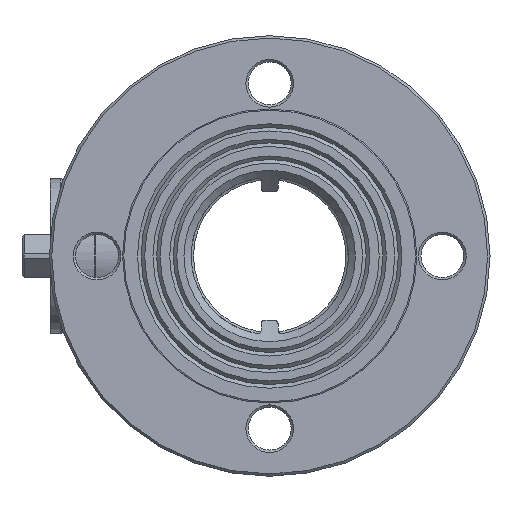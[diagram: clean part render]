
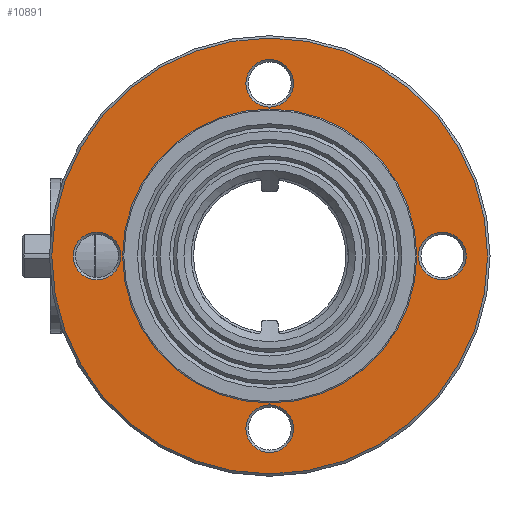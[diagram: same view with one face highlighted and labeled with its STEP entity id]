
A CAD part, left-side view. The second image highlights one B-rep face of the part: STEP entity #10891.
In plain terms, the highlighted planar face has unit normal (-1, 0, 0) as drawn and (0, 0, -1) by its records, which use the part's own axes.
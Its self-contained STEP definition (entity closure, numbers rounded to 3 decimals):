
#1015=CIRCLE('',#11944,10.);
#1016=CIRCLE('',#11946,91.5);
#1017=CIRCLE('',#11947,10.);
#1018=CIRCLE('',#11948,10.);
#1019=CIRCLE('',#11949,47.5);
#1020=CIRCLE('',#11950,10.);
#1681=FACE_BOUND('',#3209,.T.);
#1682=FACE_BOUND('',#3210,.T.);
#1683=FACE_BOUND('',#3211,.T.);
#1684=FACE_BOUND('',#3212,.T.);
#1685=FACE_BOUND('',#3213,.T.);
#2347=FACE_OUTER_BOUND('',#3208,.T.);
#3208=EDGE_LOOP('',(#9775));
#3209=EDGE_LOOP('',(#9776));
#3210=EDGE_LOOP('',(#9777));
#3211=EDGE_LOOP('',(#9778));
#3212=EDGE_LOOP('',(#9779));
#3213=EDGE_LOOP('',(#9780));
#5460=VERTEX_POINT('',#21383);
#5461=VERTEX_POINT('',#21386);
#5462=VERTEX_POINT('',#21388);
#5463=VERTEX_POINT('',#21390);
#5464=VERTEX_POINT('',#21392);
#5465=VERTEX_POINT('',#21394);
#6917=EDGE_CURVE('',#5460,#5460,#1015,.T.);
#6918=EDGE_CURVE('',#5461,#5461,#1016,.T.);
#6919=EDGE_CURVE('',#5462,#5462,#1017,.T.);
#6920=EDGE_CURVE('',#5463,#5463,#1018,.T.);
#6921=EDGE_CURVE('',#5464,#5464,#1019,.T.);
#6922=EDGE_CURVE('',#5465,#5465,#1020,.T.);
#9775=ORIENTED_EDGE('',*,*,#6918,.F.);
#9776=ORIENTED_EDGE('',*,*,#6919,.F.);
#9777=ORIENTED_EDGE('',*,*,#6920,.F.);
#9778=ORIENTED_EDGE('',*,*,#6921,.F.);
#9779=ORIENTED_EDGE('',*,*,#6922,.F.);
#9780=ORIENTED_EDGE('',*,*,#6917,.F.);
#10256=PLANE('',#11945);
#10891=ADVANCED_FACE('',(#2347,#1681,#1682,#1683,#1684,#1685),#10256,.T.);
#11944=AXIS2_PLACEMENT_3D('',#21384,#14616,#14617);
#11945=AXIS2_PLACEMENT_3D('',#21385,#14618,#14619);
#11946=AXIS2_PLACEMENT_3D('',#21387,#14620,#14621);
#11947=AXIS2_PLACEMENT_3D('',#21389,#14622,#14623);
#11948=AXIS2_PLACEMENT_3D('',#21391,#14624,#14625);
#11949=AXIS2_PLACEMENT_3D('',#21393,#14626,#14627);
#11950=AXIS2_PLACEMENT_3D('',#21395,#14628,#14629);
#14616=DIRECTION('center_axis',(0.,0.,-1.));
#14617=DIRECTION('ref_axis',(-1.,0.,0.));
#14618=DIRECTION('center_axis',(0.,0.,-1.));
#14619=DIRECTION('ref_axis',(-1.,0.,0.));
#14620=DIRECTION('center_axis',(0.,0.,1.));
#14621=DIRECTION('ref_axis',(-1.,0.,0.));
#14622=DIRECTION('center_axis',(0.,0.,-1.));
#14623=DIRECTION('ref_axis',(-1.,0.,0.));
#14624=DIRECTION('center_axis',(0.,0.,-1.));
#14625=DIRECTION('ref_axis',(-1.,0.,0.));
#14626=DIRECTION('center_axis',(0.,0.,-1.));
#14627=DIRECTION('ref_axis',(-1.,0.,0.));
#14628=DIRECTION('center_axis',(0.,0.,-1.));
#14629=DIRECTION('ref_axis',(-1.,0.,0.));
#21383=CARTESIAN_POINT('',(82.5,0.,0.));
#21384=CARTESIAN_POINT('Origin',(72.5,0.,0.));
#21385=CARTESIAN_POINT('Origin',(0.,0.,0.));
#21386=CARTESIAN_POINT('',(91.5,0.,0.));
#21387=CARTESIAN_POINT('Origin',(0.,0.,0.));
#21388=CARTESIAN_POINT('',(10.,72.5,0.));
#21389=CARTESIAN_POINT('Origin',(0.,72.5,0.));
#21390=CARTESIAN_POINT('',(10.,-72.5,0.));
#21391=CARTESIAN_POINT('Origin',(0.,-72.5,0.));
#21392=CARTESIAN_POINT('',(47.5,0.,0.));
#21393=CARTESIAN_POINT('Origin',(0.,0.,0.));
#21394=CARTESIAN_POINT('',(-62.5,0.,0.));
#21395=CARTESIAN_POINT('Origin',(-72.5,0.,0.));
